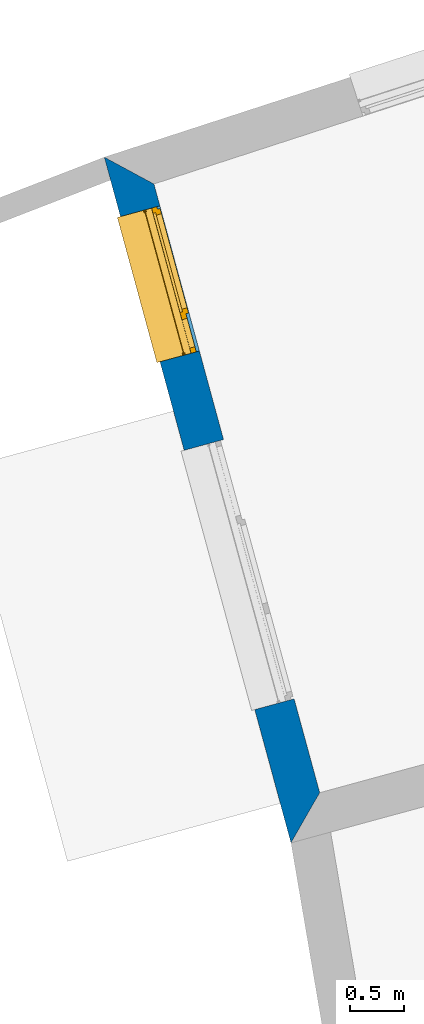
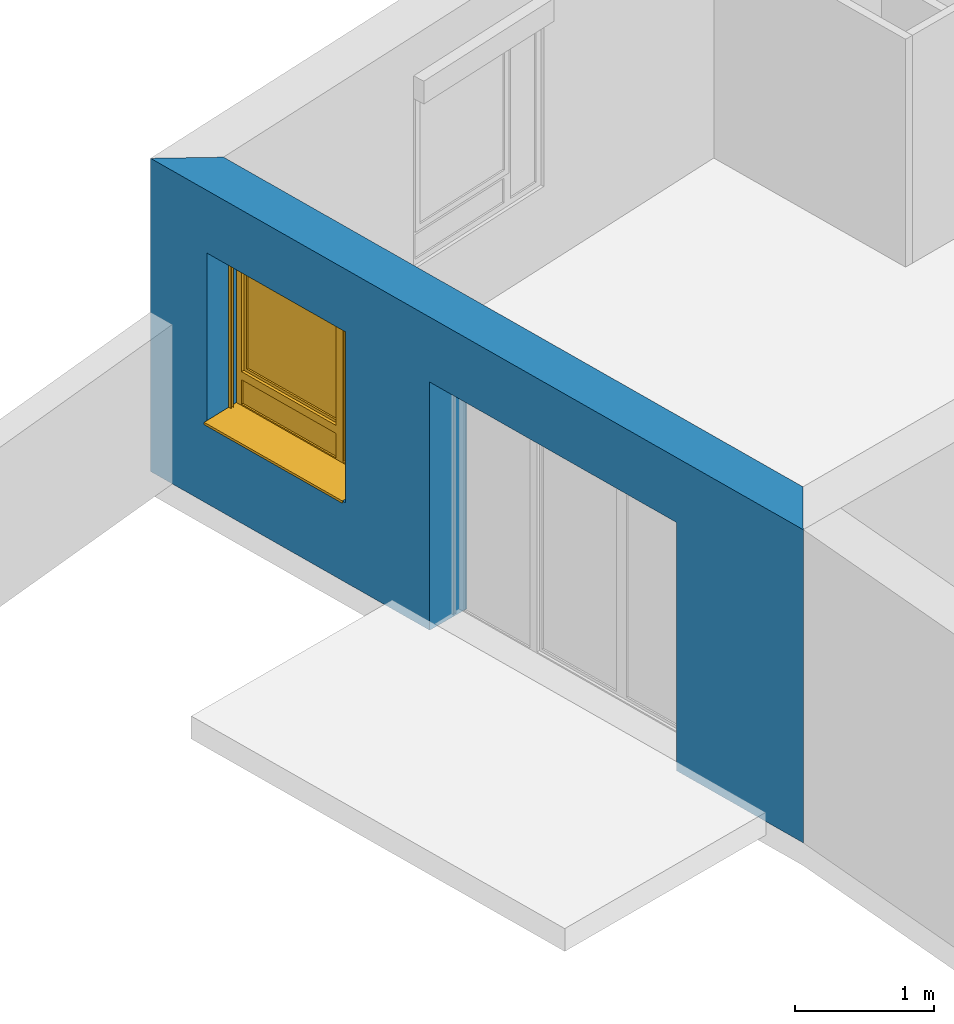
# One storey, part 93 of 195: 1 wall, 1 window, 2 openings.
"""IFC2X3 building model written with IfcOpenShell, lengths in metres."""

from ifc_helpers import new_model, entity, si_unit, converted_unit, derived_unit, money_unit, direction, frame, origin_with_axes, place, context, subcontext, project, spatial, polyline, outline, extrude, open_shell, faceted_brep, surface_model, source, transform, mapped, material, layer, layer_set, layer_usage, type_object, element, fill, save


model = new_model("IFC2X3")

# Units and contexts
model_context = context("Model", 3, precision=1e-05, world=origin_with_axes(), true_north=direction((0.0, 1.0)))
body_context = subcontext(model_context, "Body", "Model", "MODEL_VIEW")
ifc_project = project(units=[si_unit("LENGTHUNIT", "METRE"), si_unit("AREAUNIT", "SQUARE_METRE"), si_unit("VOLUMEUNIT", "CUBIC_METRE"), converted_unit("PLANEANGLEUNIT", "DEGREE", entity("IfcPlaneAngleMeasure", 0.0174532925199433), si_unit("PLANEANGLEUNIT", "RADIAN"), dimensions=[0, 0, 0, 0, 0, 0, 0]), money_unit("CHF"), converted_unit("TIMEUNIT", "Year", entity("IfcTimeMeasure", 31557600.0), si_unit("TIMEUNIT", "SECOND"), dimensions=[0, 0, 1, 0, 0, 0, 0]), si_unit("MASSUNIT", "GRAM", prefix="KILO"), si_unit("THERMODYNAMICTEMPERATUREUNIT", "DEGREE_CELSIUS"), si_unit("LUMINOUSINTENSITYUNIT", "LUMEN"), si_unit("ENERGYUNIT", "JOULE", prefix="MEGA"), derived_unit("THERMALCONDUCTANCEUNIT", [(si_unit("POWERUNIT", "WATT"), 1), (si_unit("LENGTHUNIT", "METRE"), -1), (si_unit("THERMODYNAMICTEMPERATUREUNIT", "KELVIN"), -1)]), derived_unit("SPECIFICHEATCAPACITYUNIT", [(si_unit("ENERGYUNIT", "JOULE"), 1), (si_unit("MASSUNIT", "GRAM", prefix="KILO"), -1), (si_unit("THERMODYNAMICTEMPERATUREUNIT", "KELVIN"), -1)]), derived_unit("MASSDENSITYUNIT", [(si_unit("MASSUNIT", "GRAM", prefix="KILO"), 1), (si_unit("VOLUMEUNIT", "CUBIC_METRE"), -1)])], contexts=[model_context])

# Site, building, storey
site_placement = place(None, origin_with_axes())
site = spatial("IfcSite", under=ifc_project, at=site_placement, Name="Site", CompositionType="ELEMENT")
building_placement = place(site_placement, origin_with_axes())
building = spatial("IfcBuilding", under=site, at=building_placement, Name="Bâtiment", CompositionType="ELEMENT")
storey_placement = place(building_placement, origin_with_axes())
storey = spatial("IfcBuildingStorey", under=building, at=storey_placement, Name="rdc", CompositionType="ELEMENT", Elevation=0.0)

# Wall, openings, window
ifc_material_1 = material(Name="Parpaing 312445824")
ifc_layer_1 = layer(ifc_material_1, 0.22, ventilated="UNKNOWN")
ifc_material_2 = material(Name="Isolant styromousse 301821074")
ifc_layer_2 = layer(ifc_material_2, 0.16, ventilated="UNKNOWN")
ifc_layer_set = layer_set([ifc_layer_1, ifc_layer_2], Name="isol int 22+16 0836643197")
ifc_layer_usage = layer_usage(ifc_layer_set, "AXIS2", "POSITIVE", 0.0)
wall_type = type_object("IfcWallType", Name="isol int 22+16 0836643197 380", PredefinedType="NOTDEFINED")
wall_placement = place(storey_placement, frame((9578.094746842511, -1016.66205963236, 57.7), z_axis=(0.0, 0.0, 1.0), x_axis=(0.2627340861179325, -0.9648682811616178, 0.0)))
wall = element("IfcWallStandardCase", 1, at=wall_placement, inside=storey, type_object=wall_type, material=ifc_layer_usage, Name="Mur-113", context=body_context, shape_type="SweptSolid", body=[
    extrude(outline(polyline([(0.0, 0.0), (6.613001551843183, 0.0), (6.233001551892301, 0.3799999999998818), (0.3620706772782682, 0.3799999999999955), (0.0, 0.0)])), origin_with_axes(), (0.0, 0.0, 1.0), 2.75),
])
opening_1_placement = place(wall_placement, frame((4.077644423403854, 0.0, 0.0), z_axis=(0.0, 0.0, 1.0), x_axis=(1.0, 0.0, 0.0)))
element("IfcOpeningElement", 2, at=opening_1_placement, cuts=wall, Name="Fen-045", context=body_context, shape_type="Brep", body=[
    faceted_brep([(-1.250000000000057, 0.4799999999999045, 2.18), (1.249999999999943, 0.4799999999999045, 2.18), (1.25, 2.05742093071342, 2.18), (-1.25, 2.057420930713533, 2.18), (-1.25, 0.4800000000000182, 2.380000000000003), (1.25, 0.4800000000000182, 2.380000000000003), (1.249999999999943, 0.2999999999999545, 2.18), (1.249999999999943, 0.2999999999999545, 0.0), (1.25, 2.05742093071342, 0.0), (-1.25, 2.057420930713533, 0.0), (-1.250000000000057, 0.2999999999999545, 2.18), (-1.25, 0.2999999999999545, 0.0), (-1.250000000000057, 0.2200000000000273, 2.18), (-1.250000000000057, 0.2200000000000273, 2.380000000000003), (1.249999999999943, 0.2200000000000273, 2.380000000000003), (1.249999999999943, 0.2200000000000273, 2.18), (1.249999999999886, -1.677420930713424, 2.18), (1.249999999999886, -1.677420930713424, 0.0), (-1.250000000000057, -1.677420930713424, 0.0), (-1.250000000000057, -1.677420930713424, 2.18)], [[[0, 1, 2, 3]], [[1, 0, 4, 5]], [[1, 6, 7, 8, 2]], [[2, 8, 9, 3]], [[10, 0, 3, 9, 11]], [[0, 10, 12, 13, 4]], [[4, 13, 14, 5]], [[6, 1, 5, 14, 15]], [[6, 15, 16, 17, 7]], [[7, 11, 9, 8]], [[12, 10, 11, 18, 19]], [[12, 15, 14, 13]], [[15, 12, 19, 16]], [[19, 18, 17, 16]], [[11, 7, 17, 18]]]),
])
opening_2_placement = place(wall_placement, frame((1.273124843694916, 0.0, 0.7000000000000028), z_axis=(0.0, 0.0, 1.0), x_axis=(1.0, 0.0, 0.0)))
opening_2 = element("IfcOpeningElement", 3, at=opening_2_placement, cuts=wall, Name="Fen-045", context=body_context, shape_type="Brep", body=[
    faceted_brep([(-0.6999999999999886, 0.4800000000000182, 1.5), (0.6999999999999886, 0.4799999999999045, 1.5), (0.6999999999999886, 2.057420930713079, 1.5), (-0.6999999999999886, 2.057420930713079, 1.5), (-0.6999999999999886, 0.4800000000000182, 1.700000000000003), (0.6999999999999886, 0.4799999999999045, 1.700000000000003), (0.6999999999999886, 0.2999999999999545, 1.5), (0.6999999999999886, 0.2999999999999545, 0.0), (0.6999999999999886, 2.057420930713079, 0.0), (-0.6999999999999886, 2.057420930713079, 0.0), (-0.6999999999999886, 0.3000000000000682, 1.5), (-0.6999999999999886, 0.3000000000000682, 0.0), (-0.6999999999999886, 0.2200000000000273, 1.5), (-0.6999999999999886, 0.2200000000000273, 1.700000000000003), (0.6999999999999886, 0.2199999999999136, 1.700000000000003), (0.6999999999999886, 0.2199999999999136, 1.5), (0.6999999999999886, -1.677420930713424, 1.5), (0.6999999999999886, -1.677420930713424, 0.0), (-0.6999999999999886, -1.677420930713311, 0.0), (-0.6999999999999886, -1.677420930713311, 1.5)], [[[0, 1, 2, 3]], [[1, 0, 4, 5]], [[1, 6, 7, 8, 2]], [[2, 8, 9, 3]], [[10, 0, 3, 9, 11]], [[0, 10, 12, 13, 4]], [[14, 5, 4, 13]], [[6, 1, 5, 14, 15]], [[6, 15, 16, 17, 7]], [[7, 11, 9, 8]], [[12, 10, 11, 18, 19]], [[12, 15, 14, 13]], [[15, 12, 19, 16]], [[19, 18, 17, 16]], [[11, 7, 17, 18]]]),
])
window_style = type_object("IfcWindowStyle", Name="Fenêtre variable 27", ConstructionType="NOTDEFINED", OperationType="TRIPLE_PANEL_RIGHT", ParameterTakesPrecedence=False, Sizeable=False)
shared_shape = source(origin_with_axes(), body_context, "Body", "SurfaceModel", [
    surface_model("IfcShellBasedSurfaceModel", [(-0.7, -0.05100000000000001, 0.05), (-0.7, -0.05100000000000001, 0.04), (0.7, -0.05100000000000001, 0.04000000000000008), (0.7, -0.05100000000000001, 0.05000000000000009), (-0.7, -0.3799999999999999, 0.02899999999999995), (0.7, -0.3799999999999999, 0.02900000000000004), (-0.7, -0.3799999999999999, 0.008999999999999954), (0.7, -0.3799999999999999, 0.00900000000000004), (-0.7, -0.3699999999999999, 0.01899999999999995), (0.7, -0.3699999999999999, 0.01900000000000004)], [open_shell([[[0, 1, 2, 3]], [[1, 4, 5, 2]], [[4, 6, 7, 5]], [[6, 8, 9, 7]]])]),
    faceted_brep([(-0.7, -0.13, 1.7), (-0.697, -0.13, 1.7), (-0.697, 0.13, 1.7), (-0.7, 0.13, 1.7), (-0.7, -0.13, 1.5), (-0.697, -0.13, 1.5), (-0.697, 0.13, 1.5), (-0.7, 0.13, 1.5)], [[[0, 1, 2, 3]], [[4, 5, 1, 0]], [[1, 5, 6, 2]], [[3, 2, 6, 7]], [[0, 3, 7, 4]], [[7, 6, 5, 4]]]),
    faceted_brep([(0.6970000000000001, -0.1299999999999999, 1.7), (0.7000000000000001, -0.1299999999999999, 1.7), (0.7000000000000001, 0.1300000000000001, 1.7), (0.6970000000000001, 0.1300000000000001, 1.7), (0.6970000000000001, -0.1299999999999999, 1.5), (0.7000000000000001, -0.1299999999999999, 1.5), (0.7000000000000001, 0.1300000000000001, 1.5), (0.6970000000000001, 0.1300000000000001, 1.5)], [[[0, 1, 2, 3]], [[4, 5, 1, 0]], [[1, 5, 6, 2]], [[3, 2, 6, 7]], [[0, 3, 7, 4]], [[7, 6, 5, 4]]]),
    faceted_brep([(-0.697, -0.13, 1.5), (0.697, -0.1299999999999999, 1.5), (0.697, -0.1299999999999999, 1.7), (-0.697, -0.13, 1.7), (-0.697, -0.127, 1.5), (0.697, -0.1269999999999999, 1.5), (0.697, -0.1269999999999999, 1.697), (0.697, 0.1270000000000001, 1.697), (0.697, 0.1270000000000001, 1.503), (0.697, -0.1079999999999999, 1.503), (0.697, -0.1079999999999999, 1.5), (0.697, 0.1300000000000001, 1.5), (0.697, 0.1300000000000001, 1.7), (-0.697, 0.13, 1.7), (-0.697, 0.13, 1.5), (-0.697, -0.108, 1.5), (-0.697, -0.108, 1.503), (-0.697, 0.127, 1.503), (-0.697, 0.127, 1.697), (-0.697, -0.127, 1.697)], [[[0, 1, 2, 3]], [[4, 5, 1, 0]], [[1, 5, 6, 7, 8, 9, 10, 11, 12, 2]], [[3, 2, 12, 13]], [[0, 3, 13, 14, 15, 16, 17, 18, 19, 4]], [[19, 6, 5, 4]], [[18, 7, 6, 19]], [[17, 8, 7, 18]], [[16, 9, 8, 17]], [[15, 10, 9, 16]], [[14, 11, 10, 15]], [[13, 12, 11, 14]]]),
    faceted_brep([(-0.694, -0.08075423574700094, 1.585760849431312), (-0.694, -0.08200000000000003, 1.6), (-0.694, -0.0807542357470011, 1.614239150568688), (-0.694, -0.07705479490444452, 1.628045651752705), (-0.694, -0.07101408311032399, 1.641), (-0.694, -0.06281564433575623, 1.652708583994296), (-0.694, -0.05270858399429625, 1.662815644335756), (-0.694, -0.04100000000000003, 1.671014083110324), (-0.694, -0.02804565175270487, 1.677054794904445), (-0.694, -0.01423915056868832, 1.680754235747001), (-0.694, 0.0, 1.682), (-0.694, 0.01423915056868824, 1.680754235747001), (-0.694, 0.02804565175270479, 1.677054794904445), (-0.694, 0.04099999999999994, 1.671014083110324), (-0.694, 0.05270858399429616, 1.662815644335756), (-0.694, 0.06281564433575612, 1.652708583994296), (-0.694, 0.07101408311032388, 1.641), (-0.694, 0.0770547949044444, 1.628045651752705), (-0.694, 0.08075423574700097, 1.614239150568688), (-0.694, 0.0819999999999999, 1.6), (-0.694, 0.08075423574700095, 1.585760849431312), (-0.694, 0.07705479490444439, 1.571954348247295), (-0.694, 0.07101408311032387, 1.559), (-0.694, 0.06281564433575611, 1.547291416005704), (-0.694, 0.05270858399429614, 1.537184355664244), (-0.694, 0.04099999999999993, 1.528985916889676), (-0.694, 0.02804565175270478, 1.522945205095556), (-0.694, 0.01423915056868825, 1.519245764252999), (-0.694, 0.0, 1.518), (-0.694, -0.01423915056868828, 1.519245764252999), (-0.694, -0.02804565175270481, 1.522945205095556), (-0.694, -0.04099999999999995, 1.528985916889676), (-0.694, -0.05270858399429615, 1.537184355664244), (-0.694, -0.06281564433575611, 1.547291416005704), (-0.694, -0.07101408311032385, 1.559), (-0.694, -0.07705479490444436, 1.571954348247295), (0.694, -0.08075423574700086, 1.585760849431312), (0.694, -0.08199999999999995, 1.6), (0.694, -0.08075423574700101, 1.614239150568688), (0.694, -0.07705479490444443, 1.628045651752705), (0.694, -0.07101408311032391, 1.641), (0.694, -0.06281564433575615, 1.652708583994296), (0.694, -0.05270858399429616, 1.662815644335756), (0.694, -0.04099999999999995, 1.671014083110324), (0.694, -0.02804565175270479, 1.677054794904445), (0.694, -0.01423915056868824, 1.680754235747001), (0.694, 0.0, 1.682), (0.694, 0.01423915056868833, 1.680754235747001), (0.694, 0.02804565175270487, 1.677054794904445), (0.694, 0.04100000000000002, 1.671014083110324), (0.694, 0.05270858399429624, 1.662815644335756), (0.694, 0.0628156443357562, 1.652708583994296), (0.694, 0.07101408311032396, 1.641), (0.694, 0.07705479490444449, 1.628045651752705), (0.694, 0.08075423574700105, 1.614239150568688), (0.694, 0.08199999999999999, 1.6), (0.694, 0.08075423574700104, 1.585760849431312), (0.694, 0.07705479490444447, 1.571954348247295), (0.694, 0.07101408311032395, 1.559), (0.694, 0.06281564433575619, 1.547291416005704), (0.694, 0.05270858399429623, 1.537184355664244), (0.694, 0.04100000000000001, 1.528985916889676), (0.694, 0.02804565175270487, 1.522945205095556), (0.694, 0.01423915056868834, 1.519245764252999), (0.694, 0.0, 1.518), (0.694, -0.0142391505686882, 1.519245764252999), (0.694, -0.02804565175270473, 1.522945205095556), (0.694, -0.04099999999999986, 1.528985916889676), (0.694, -0.05270858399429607, 1.537184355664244), (0.694, -0.06281564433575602, 1.547291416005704), (0.694, -0.07101408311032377, 1.559), (0.694, -0.07705479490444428, 1.571954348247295)], [[[0, 1, 2, 3, 4, 5, 6, 7, 8, 9, 10, 11, 12, 13, 14, 15, 16, 17, 18, 19, 20, 21, 22, 23, 24, 25, 26, 27, 28, 29, 30, 31, 32, 33, 34, 35]], [[0, 36, 37, 1]], [[1, 37, 38, 2]], [[2, 38, 39, 3]], [[3, 39, 40, 4]], [[4, 40, 41, 5]], [[5, 41, 42, 6]], [[6, 42, 43, 7]], [[7, 43, 44, 8]], [[8, 44, 45, 9]], [[9, 45, 46, 10]], [[10, 46, 47, 11]], [[11, 47, 48, 12]], [[12, 48, 49, 13]], [[13, 49, 50, 14]], [[14, 50, 51, 15]], [[15, 51, 52, 16]], [[16, 52, 53, 17]], [[17, 53, 54, 18]], [[18, 54, 55, 19]], [[19, 55, 56, 20]], [[20, 56, 57, 21]], [[21, 57, 58, 22]], [[22, 58, 59, 23]], [[23, 59, 60, 24]], [[24, 60, 61, 25]], [[25, 61, 62, 26]], [[26, 62, 63, 27]], [[27, 63, 64, 28]], [[28, 64, 65, 29]], [[29, 65, 66, 30]], [[30, 66, 67, 31]], [[31, 67, 68, 32]], [[32, 68, 69, 33]], [[33, 69, 70, 34]], [[34, 70, 71, 35]], [[35, 71, 36, 0]], [[36, 71, 70, 69, 68, 67, 66, 65, 64, 63, 62, 61, 60, 59, 58, 57, 56, 55, 54, 53, 52, 51, 50, 49, 48, 47, 46, 45, 44, 43, 42, 41, 40, 39, 38, 37]]]),
    faceted_brep([(0.7, -0.105, 0.03), (0.7, -0.1049999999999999, 1.5), (0.7, -0.1299999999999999, 1.5), (0.7, -0.13, 0.03), (0.6749999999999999, -0.105, 0.03), (0.6749999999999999, -0.1049999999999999, 1.5), (0.6749999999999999, -0.1079999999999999, 1.5), (0.697, -0.1079999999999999, 1.5), (0.697, -0.1269999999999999, 1.5), (0.6749999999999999, -0.1269999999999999, 1.5), (0.6749999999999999, -0.1299999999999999, 1.5), (0.6749999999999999, -0.13, 0.03), (0.6749999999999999, -0.127, 0.03), (0.697, -0.127, 0.03), (0.697, -0.108, 0.03), (0.6749999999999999, -0.108, 0.03)], [[[0, 1, 2, 3]], [[4, 5, 1, 0]], [[1, 5, 6, 7, 8, 9, 10, 2]], [[3, 2, 10, 11]], [[0, 3, 11, 12, 13, 14, 15, 4]], [[15, 6, 5, 4]], [[14, 7, 6, 15]], [[13, 8, 7, 14]], [[12, 9, 8, 13]], [[11, 10, 9, 12]]]),
    faceted_brep([(-0.7, -0.105, 0.03), (-0.7, -0.13, 0.03), (-0.7, -0.1299999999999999, 1.5), (-0.7, -0.1049999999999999, 1.5), (-0.6749999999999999, -0.105, 0.03), (-0.6749999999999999, -0.108, 0.03), (-0.697, -0.108, 0.03), (-0.697, -0.127, 0.03), (-0.6749999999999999, -0.127, 0.03), (-0.6749999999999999, -0.13, 0.03), (-0.6749999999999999, -0.1299999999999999, 1.5), (-0.6749999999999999, -0.1269999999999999, 1.5), (-0.697, -0.1269999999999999, 1.5), (-0.697, -0.1079999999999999, 1.5), (-0.6749999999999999, -0.1079999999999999, 1.5), (-0.6749999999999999, -0.1049999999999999, 1.5)], [[[0, 1, 2, 3]], [[0, 4, 5, 6, 7, 8, 9, 1]], [[1, 9, 10, 2]], [[3, 2, 10, 11, 12, 13, 14, 15]], [[4, 0, 3, 15]], [[5, 4, 15, 14]], [[6, 5, 14, 13]], [[7, 6, 13, 12]], [[8, 7, 12, 11]], [[9, 8, 11, 10]]]),
    surface_model("IfcShellBasedSurfaceModel", [(-0.697, -0.115, 1.6), (0.697, -0.1149999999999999, 1.6), (0.697, -0.1199999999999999, 1.6), (-0.697, -0.12, 1.6), (-0.697, -0.115, 1.6), (-0.697, -0.12, 1.6), (0.697, -0.12, 1.6), (0.697, -0.1149999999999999, 1.6)], [open_shell([[[0, 1, 2, 3]], [[4, 5, 6, 7]]])]),
    faceted_brep([(-0.697, -0.115, 1.6), (0.697, -0.1149999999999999, 1.6), (0.697, -0.1166666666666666, 1.583333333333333), (-0.697, -0.1166666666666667, 1.583333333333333), (-0.697, -0.12, 1.6), (0.697, -0.1199999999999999, 1.6), (0.697, -0.1216666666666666, 1.583333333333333), (0.697, -0.1216666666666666, 1.566666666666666), (0.697, -0.1199999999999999, 1.55), (0.697, -0.1149999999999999, 1.55), (0.697, -0.1166666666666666, 1.566666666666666), (-0.697, -0.1166666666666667, 1.566666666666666), (-0.697, -0.115, 1.55), (-0.697, -0.12, 1.55), (-0.697, -0.1216666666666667, 1.566666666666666), (-0.697, -0.1216666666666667, 1.583333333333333)], [[[0, 1, 2, 3]], [[4, 5, 1, 0]], [[1, 5, 6, 7, 8, 9, 10, 2]], [[3, 2, 10, 11]], [[0, 3, 11, 12, 13, 14, 15, 4]], [[15, 6, 5, 4]], [[14, 7, 6, 15]], [[13, 8, 7, 14]], [[12, 9, 8, 13]], [[11, 10, 9, 12]]]),
    faceted_brep([(-0.697, -0.115, 1.55), (0.697, -0.1149999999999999, 1.55), (0.697, -0.1166666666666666, 1.533333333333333), (-0.697, -0.1166666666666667, 1.533333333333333), (-0.697, -0.12, 1.55), (0.697, -0.1199999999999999, 1.55), (0.697, -0.1216666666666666, 1.533333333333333), (0.697, -0.1216666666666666, 1.516666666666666), (0.697, -0.1199999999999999, 1.5), (0.697, -0.1149999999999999, 1.5), (0.697, -0.1166666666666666, 1.516666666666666), (-0.697, -0.1166666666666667, 1.516666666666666), (-0.697, -0.115, 1.5), (-0.697, -0.12, 1.5), (-0.697, -0.1216666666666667, 1.516666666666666), (-0.697, -0.1216666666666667, 1.533333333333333)], [[[0, 1, 2, 3]], [[4, 5, 1, 0]], [[1, 5, 6, 7, 8, 9, 10, 2]], [[3, 2, 10, 11]], [[0, 3, 11, 12, 13, 14, 15, 4]], [[15, 6, 5, 4]], [[14, 7, 6, 15]], [[13, 8, 7, 14]], [[12, 9, 8, 13]], [[11, 10, 9, 12]]]),
    faceted_brep([(-0.6749999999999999, 0.0, 1.45), (-0.7, 0.0, 1.45), (-0.7, -0.05000000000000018, 1.45), (-0.6499999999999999, -0.05000000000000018, 1.45), (-0.6499999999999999, -0.02500000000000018, 1.45), (-0.6749999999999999, -0.02500000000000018, 1.45), (-0.6749999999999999, 0.0, 0.3099999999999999), (-0.6499999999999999, 0.0, 0.3099999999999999), (-0.6499999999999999, 0.0, 0.265), (-0.6499999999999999, 0.0, 0.05000000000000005), (-0.7, 0.0, 0.05000000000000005), (-0.7, -0.05000000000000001, 0.05000000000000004), (-0.6499999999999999, -0.05000000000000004, 0.335), (-0.6499999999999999, -0.05000000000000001, 0.05000000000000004), (-0.6499999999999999, -0.05000000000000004, 0.265), (-0.6499999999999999, -0.02500000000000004, 0.335), (-0.6499999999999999, -0.02500000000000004, 0.3099999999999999), (-0.6749999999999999, -0.02500000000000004, 0.3099999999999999)], [[[0, 1, 2, 3, 4, 5]], [[6, 7, 8, 9, 10, 1, 0]], [[1, 10, 11, 2]], [[12, 3, 2, 11, 13, 14]], [[4, 3, 12, 15]], [[15, 16, 17, 5, 4]], [[5, 17, 6, 0]], [[6, 17, 16, 7]], [[16, 15, 12, 14, 8, 7]], [[9, 8, 14, 13]], [[10, 9, 13, 11]]]),
    faceted_brep([(0.3068894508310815, -0.02500000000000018, 1.45), (0.3068894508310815, -0.05000000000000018, 1.45), (0.3768894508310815, -0.05000000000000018, 1.45), (0.3768894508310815, 0.0, 1.45), (0.3318894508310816, 0.0, 1.45), (0.3318894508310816, -0.02500000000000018, 1.45), (0.3068894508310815, -0.02500000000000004, 0.335), (0.3068894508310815, -0.05000000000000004, 0.335), (0.3068894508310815, -0.05000000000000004, 0.265), (0.3068894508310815, -0.05000000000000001, 0.05000000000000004), (0.3768894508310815, -0.05000000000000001, 0.05000000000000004), (0.3768894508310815, 0.0, 0.05000000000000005), (0.3318894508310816, 0.0, 0.3099999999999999), (0.3068894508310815, 0.0, 0.05000000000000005), (0.3068894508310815, 0.0, 0.265), (0.3068894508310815, 0.0, 0.3099999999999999), (0.3318894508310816, -0.02500000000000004, 0.3099999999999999), (0.3068894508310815, -0.02500000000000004, 0.3099999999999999)], [[[0, 1, 2, 3, 4, 5]], [[6, 7, 1, 0]], [[8, 9, 10, 2, 1, 7]], [[11, 3, 2, 10]], [[12, 4, 3, 11, 13, 14, 15]], [[12, 16, 5, 4]], [[5, 16, 17, 6, 0]], [[17, 15, 14, 8, 7, 6]], [[14, 13, 9, 8]], [[13, 11, 10, 9]], [[15, 17, 16, 12]]]),
    faceted_brep([(-0.6499999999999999, -0.02500000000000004, 0.335), (-0.6499999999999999, -0.05000000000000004, 0.335), (0.3068894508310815, -0.05000000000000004, 0.335), (0.3068894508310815, -0.02500000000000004, 0.335), (-0.6499999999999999, -0.02500000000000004, 0.3099999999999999), (-0.6499999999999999, 0.0, 0.3099999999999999), (-0.6499999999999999, 0.0, 0.265), (-0.6499999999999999, -0.05000000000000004, 0.265), (0.3068894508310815, -0.05000000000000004, 0.265), (0.3068894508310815, -0.02500000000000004, 0.3099999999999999), (0.3068894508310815, 0.0, 0.265), (0.3068894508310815, 0.0, 0.3099999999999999)], [[[0, 1, 2, 3]], [[4, 5, 6, 7, 1, 0]], [[2, 1, 7, 8]], [[9, 3, 2, 8, 10, 11]], [[9, 4, 0, 3]], [[5, 4, 9, 11]], [[11, 10, 6, 5]], [[6, 10, 8, 7]]]),
    faceted_brep([(-0.6749999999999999, 0.0, 1.45), (-0.7, 0.0, 1.45), (-0.7, 0.0, 1.5), (0.7, 0.0, 1.5), (0.7, 0.0, 1.45), (0.6499999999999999, 0.0, 1.45), (0.3768894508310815, 0.0, 1.45), (0.3318894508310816, 0.0, 1.45), (0.3318894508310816, 0.0, 1.475), (-0.6749999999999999, 0.0, 1.475), (-0.6749999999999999, -0.02500000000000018, 1.45), (-0.6499999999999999, -0.02500000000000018, 1.45), (-0.6499999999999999, -0.05000000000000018, 1.45), (-0.7, -0.05000000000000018, 1.45), (-0.7, -0.05000000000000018, 1.5), (0.7, -0.05000000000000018, 1.5), (0.7, -0.05000000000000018, 1.45), (0.6499999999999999, -0.05000000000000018, 1.45), (0.3768894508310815, -0.05000000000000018, 1.45), (0.3318894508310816, -0.02500000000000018, 1.45), (0.3068894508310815, -0.05000000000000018, 1.45), (0.3068894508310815, -0.02500000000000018, 1.45), (0.3318894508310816, -0.02500000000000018, 1.475), (-0.6749999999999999, -0.02500000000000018, 1.475)], [[[0, 1, 2, 3, 4, 5, 6, 7, 8, 9]], [[10, 11, 12, 13, 1, 0]], [[2, 1, 13, 14]], [[3, 2, 14, 15]], [[4, 3, 15, 16]], [[5, 4, 16, 17]], [[6, 5, 17, 18]], [[19, 7, 6, 18, 20, 21]], [[7, 19, 22, 8]], [[8, 22, 23, 9]], [[9, 23, 10, 0]], [[21, 11, 10, 23, 22, 19]], [[21, 20, 12, 11]], [[18, 17, 16, 15, 14, 13, 12, 20]]]),
    faceted_brep([(0.6499999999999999, -0.05000000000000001, 0.05), (0.6499999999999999, 0.0, 0.05000000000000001), (0.7, 0.0, 0.05000000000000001), (0.7, -0.05000000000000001, 0.05), (0.6499999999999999, -0.05000000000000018, 1.45), (0.6499999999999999, 0.0, 1.45), (0.7, 0.0, 1.45), (0.7, -0.05000000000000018, 1.45)], [[[0, 1, 2, 3]], [[4, 5, 1, 0]], [[1, 5, 6, 2]], [[3, 2, 6, 7]], [[0, 3, 7, 4]], [[7, 6, 5, 4]]]),
    faceted_brep([(-0.6499999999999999, -0.05000000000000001, 0.05), (-0.6499999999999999, 0.0, 0.05000000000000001), (-0.7, 0.0, 0.05000000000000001), (-0.7, -0.05000000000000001, 0.05), (0.3068894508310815, -0.05000000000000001, 0.05), (0.3068894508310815, 0.0, 0.05000000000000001), (0.3768894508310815, 0.0, 0.05000000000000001), (0.6499999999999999, 0.0, 0.05000000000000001), (0.7, 0.0, 0.05000000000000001), (0.7, 0.0, 0.0), (-0.7, 0.0, 0.0), (-0.7, -0.05, 0.0), (0.7, -0.05, 0.0), (0.7, -0.05000000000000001, 0.05), (0.6499999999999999, -0.05000000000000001, 0.05), (0.3768894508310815, -0.05000000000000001, 0.05)], [[[0, 1, 2, 3]], [[4, 5, 1, 0]], [[1, 5, 6, 7, 8, 9, 10, 2]], [[3, 2, 10, 11]], [[0, 3, 11, 12, 13, 14, 15, 4]], [[15, 6, 5, 4]], [[14, 7, 6, 15]], [[13, 8, 7, 14]], [[12, 9, 8, 13]], [[11, 10, 9, 12]]]),
    faceted_brep([(-0.625, -0.02500000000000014, 1.425), (-0.625, 0.02499999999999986, 1.425), (-0.6749999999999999, 0.02499999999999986, 1.425), (-0.6749999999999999, -0.02500000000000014, 1.425), (-0.625, -0.02500000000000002, 0.3599999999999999), (-0.625, 0.02499999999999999, 0.3599999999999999), (-0.6749999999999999, 0.02499999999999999, 0.3599999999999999), (-0.6749999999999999, -0.02500000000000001, 0.3599999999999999)], [[[0, 1, 2, 3]], [[4, 5, 1, 0]], [[1, 5, 6, 2]], [[3, 2, 6, 7]], [[0, 3, 7, 4]], [[7, 6, 5, 4]]]),
    faceted_brep([(0.2818894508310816, -0.02500000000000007, 0.3599999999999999), (0.2818894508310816, 0.02499999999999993, 0.3599999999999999), (0.3318894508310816, 0.02499999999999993, 0.3599999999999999), (0.3318894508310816, -0.02500000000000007, 0.3599999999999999), (0.2818894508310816, -0.0250000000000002, 1.425), (0.2818894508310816, 0.0249999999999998, 1.425), (0.3318894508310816, 0.0249999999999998, 1.425), (0.3318894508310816, -0.0250000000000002, 1.425)], [[[0, 1, 2, 3]], [[4, 5, 1, 0]], [[1, 5, 6, 2]], [[3, 2, 6, 7]], [[0, 3, 7, 4]], [[7, 6, 5, 4]]]),
    faceted_brep([(0.3318894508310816, -0.02500000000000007, 0.3099999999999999), (0.3318894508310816, 0.02499999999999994, 0.3099999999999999), (0.3318894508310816, 0.02499999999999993, 0.3599999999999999), (0.3318894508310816, -0.02500000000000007, 0.3599999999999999), (-0.6749999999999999, -0.025, 0.3099999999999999), (-0.6749999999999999, 0.02499999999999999, 0.3099999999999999), (-0.6749999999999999, 0.02499999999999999, 0.3599999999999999), (-0.625, 0.02499999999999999, 0.3599999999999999), (0.2818894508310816, 0.02499999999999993, 0.3599999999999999), (0.2818894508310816, -0.02500000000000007, 0.3599999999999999), (-0.625, -0.02500000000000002, 0.3599999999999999), (-0.6749999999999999, -0.02500000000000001, 0.3599999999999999)], [[[0, 1, 2, 3]], [[4, 5, 1, 0]], [[1, 5, 6, 7, 8, 2]], [[3, 2, 8, 9]], [[0, 3, 9, 10, 11, 4]], [[11, 6, 5, 4]], [[10, 7, 6, 11]], [[9, 8, 7, 10]]]),
    faceted_brep([(-0.6749999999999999, -0.02500000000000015, 1.475), (-0.6749999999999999, 0.02499999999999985, 1.475), (-0.6749999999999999, 0.02499999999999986, 1.425), (-0.6749999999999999, -0.02500000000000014, 1.425), (0.3318894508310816, -0.02500000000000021, 1.475), (0.3318894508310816, 0.02499999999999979, 1.475), (0.3318894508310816, 0.0249999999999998, 1.425), (0.2818894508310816, 0.0249999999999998, 1.425), (-0.625, 0.02499999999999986, 1.425), (-0.625, -0.02500000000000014, 1.425), (0.2818894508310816, -0.0250000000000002, 1.425), (0.3318894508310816, -0.0250000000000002, 1.425)], [[[0, 1, 2, 3]], [[4, 5, 1, 0]], [[1, 5, 6, 7, 8, 2]], [[3, 2, 8, 9]], [[0, 3, 9, 10, 11, 4]], [[11, 6, 5, 4]], [[10, 7, 6, 11]], [[9, 8, 7, 10]]]),
    surface_model("IfcShellBasedSurfaceModel", [(-0.625, -0.01000000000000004, 0.3599999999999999), (0.2818894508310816, -0.01000000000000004, 0.3599999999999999), (0.2818894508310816, -0.01000000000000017, 1.425), (-0.625, -0.01000000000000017, 1.425)], [open_shell([[[0, 1, 2, 3]]])]),
    surface_model("IfcShellBasedSurfaceModel", [(-0.625, 0.009999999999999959, 0.3599999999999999), (-0.625, 0.00999999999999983, 1.425), (0.2818894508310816, 0.00999999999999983, 1.425), (0.2818894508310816, 0.009999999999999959, 0.3599999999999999)], [open_shell([[[0, 1, 2, 3]]])]),
    surface_model("IfcShellBasedSurfaceModel", [(0.3768894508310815, -0.035, 0.05), (0.65, -0.035, 0.05), (0.65, -0.03500000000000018, 1.45), (0.3768894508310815, -0.03500000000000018, 1.45)], [open_shell([[[0, 1, 2, 3]]])]),
    surface_model("IfcShellBasedSurfaceModel", [(0.3768894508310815, -0.015, 0.05), (0.3768894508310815, -0.01500000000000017, 1.45), (0.65, -0.01500000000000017, 1.45), (0.65, -0.015, 0.05)], [open_shell([[[0, 1, 2, 3]]])]),
    surface_model("IfcShellBasedSurfaceModel", [(-0.6499999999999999, -0.035, 0.05), (0.3068894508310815, -0.035, 0.05), (0.3068894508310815, -0.03500000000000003, 0.265), (-0.6499999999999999, -0.03500000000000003, 0.265)], [open_shell([[[0, 1, 2, 3]]])]),
    surface_model("IfcShellBasedSurfaceModel", [(-0.6499999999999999, -0.015, 0.05), (-0.6499999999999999, -0.01500000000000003, 0.265), (0.3068894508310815, -0.01500000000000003, 0.265), (0.3068894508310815, -0.015, 0.05)], [open_shell([[[0, 1, 2, 3]]])]),
])
window_placement = place(opening_2_placement, frame((-0.700000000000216, 0.0, 0.0), z_axis=(0.0, 0.0, 1.0), x_axis=(1.0, 0.0, 0.0)))
window = element("IfcWindow", 4, at=window_placement, inside=storey, type_object=window_style, Name="Fen-045", OverallHeight=1.5, OverallWidth=1.4, context=body_context, shape_type="MappedRepresentation", body=[
    mapped(shared_shape, transform((0.6999999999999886, 0.3500000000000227, 0.0))),
])
fill(opening_2, window)

save(model, "model.ifc")
